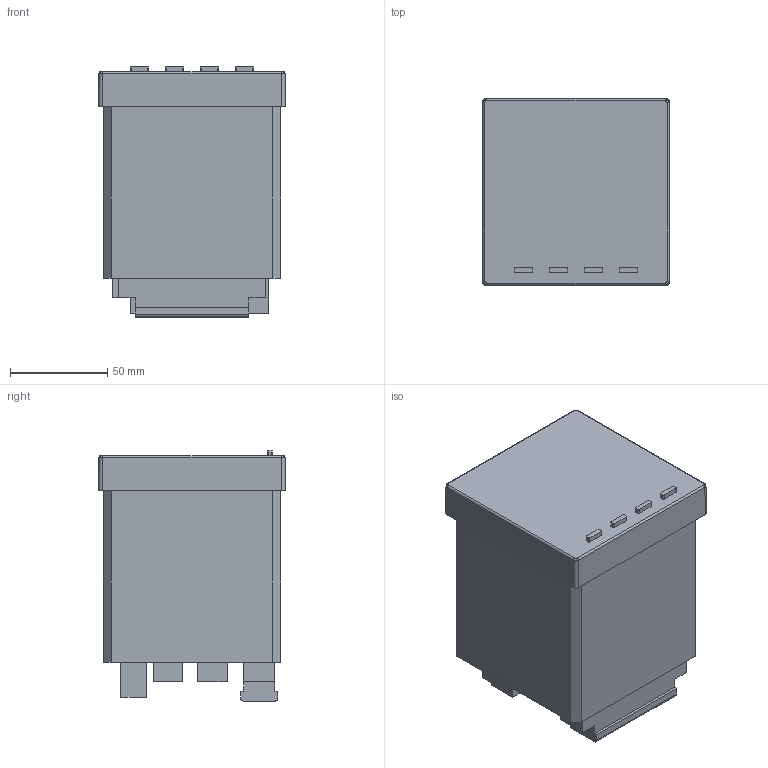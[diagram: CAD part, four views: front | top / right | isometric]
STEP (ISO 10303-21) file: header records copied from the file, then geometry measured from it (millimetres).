
FILE_DESCRIPTION (( 'STEP AP203' ), '1' );
FILE_NAME ('PEM575.STEP', '2013-09-10T08:47:58', ( '' ), ( '' ), 'SwSTEP 2.0', 'SolidWorks 2013', '' );
FILE_SCHEMA (( 'CONFIG_CONTROL_DESIGN' ));
Length unit declared in the file: millimetre
Products named in the file (1): PEM575
Bounding box: 96 x 96 x 128.5 mm (x, y, z)
Volume: 948123.1 mm3; surface area: 66120.4 mm2
Topology: 1 solids, 1 shells, 97 faces, 250 edges, 164 vertices
Faces by surface type: plane 63, cylinder 26, bspline 8
Entity records: 3109 total; most frequent: CARTESIAN_POINT 708, ORIENTED_EDGE 500, DIRECTION 458, EDGE_CURVE 250, VECTOR 182, LINE 182, VERTEX_POINT 164, AXIS2_PLACEMENT_3D 138
